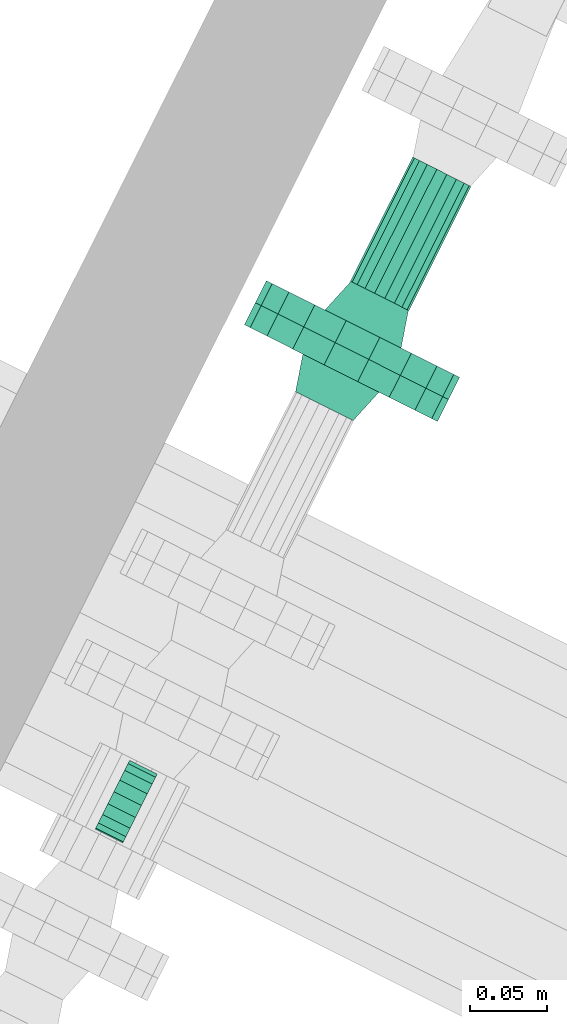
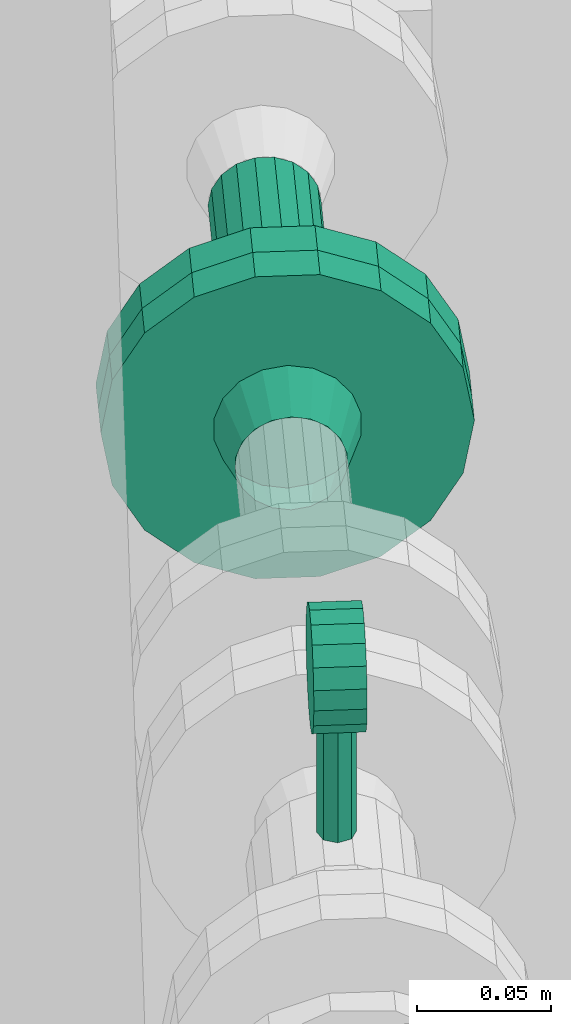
# One storey, part 142 of 206: 2 flow fittings, 1 distribution control element, 1 flow segment.
"""IFC2X3 building model written with IfcOpenShell, lengths in metres."""

from ifc_helpers import new_model, si_unit, derived_unit, direction, frame, origin, place, context, subcontext, project, spatial, face_set, surface_model, source, transform, mapped, material, type_object, type_shapes, element, save


model = new_model("IFC2X3")

# Units and contexts
model_context = context("Model", 3, precision=5.2338327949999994e-05, world=origin(), true_north=direction((0.0, 1.0)))
body_context = subcontext(model_context, "Body", "Model", "MODEL_VIEW")
ifc_project = project(units=[si_unit("LENGTHUNIT", "METRE"), si_unit("AREAUNIT", "SQUARE_METRE"), si_unit("VOLUMEUNIT", "CUBIC_METRE"), si_unit("MASSUNIT", "GRAM", prefix="KILO"), si_unit("PLANEANGLEUNIT", "RADIAN"), derived_unit("THERMALTRANSMITTANCEUNIT", [(si_unit("MASSUNIT", "GRAM", prefix="KILO"), 1), (si_unit("THERMODYNAMICTEMPERATUREUNIT", "KELVIN"), -1), (si_unit("TIMEUNIT", "SECOND"), -3)])], contexts=[model_context])

# Site, building, storey
site_placement = place(None, frame((0.0, 0.0, 0.0), z_axis=(0.0, 0.0, 1.0), x_axis=(0.8939966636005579, -0.4480736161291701, 0.0)))
site = spatial("IfcSite", under=ifc_project, at=site_placement, Name="Default", CompositionType="ELEMENT")
building_placement = place(site_placement, origin())
building = spatial("IfcBuilding", under=site, at=building_placement, CompositionType="ELEMENT")
storey_placement = place(building_placement, origin())
storey = spatial("IfcBuildingStorey", under=building, at=storey_placement, Name="Erdgeschoss", CompositionType="ELEMENT", Elevation=0.0)

# Flow fittings
ifc_material = material(Name="IfcSurfaceStyle #352577")
distribution_element_type_1 = type_object("IfcDistributionElementType", Name="Flansch 608436:Flansch 608436", material=ifc_material)
shared_shape_1 = source(origin(), body_context, "Body", "SurfaceModel", [
    surface_model("IfcFaceBasedSurfaceModel", [(29.151818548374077, 9.025162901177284, 1.5840041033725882), (29.14759703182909, 9.025162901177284, 1.6079455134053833), (29.14759703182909, 9.009162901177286, 1.6079455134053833), (29.151818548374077, 9.009162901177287, 1.5840041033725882), (29.135441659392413, 9.025162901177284, 1.628999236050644), (29.135441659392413, 9.009162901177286, 1.628999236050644), (29.116818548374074, 9.025162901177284, 1.6446258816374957), (29.116818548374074, 9.009162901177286, 1.6446258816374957), (29.093973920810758, 9.025162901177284, 1.6529406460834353), (29.093973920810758, 9.009162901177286, 1.6529406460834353), (29.069663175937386, 9.025162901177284, 1.652940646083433), (29.069663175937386, 9.009162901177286, 1.652940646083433), (29.04681854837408, 9.025162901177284, 1.6446258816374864), (29.04681854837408, 9.009162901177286, 1.6446258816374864), (29.028195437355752, 9.025162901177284, 1.6289992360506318), (29.028195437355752, 9.009162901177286, 1.6289992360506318), (29.016040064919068, 9.025162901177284, 1.6079455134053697), (29.016040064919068, 9.009162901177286, 1.6079455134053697), (29.011818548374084, 9.025162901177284, 1.5840041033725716), (29.011818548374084, 9.009162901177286, 1.5840041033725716), (29.016040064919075, 9.025162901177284, 1.5600626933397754), (29.016040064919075, 9.009162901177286, 1.5600626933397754), (29.028195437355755, 9.025162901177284, 1.5390089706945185), (29.028195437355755, 9.009162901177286, 1.5390089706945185), (29.046818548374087, 9.025162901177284, 1.523382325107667), (29.046818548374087, 9.009162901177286, 1.523382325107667), (29.069663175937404, 9.025162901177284, 1.5150675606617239), (29.069663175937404, 9.009162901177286, 1.5150675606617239), (29.093973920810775, 9.025162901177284, 1.515067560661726), (29.093973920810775, 9.009162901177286, 1.515067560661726), (29.11681854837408, 9.025162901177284, 1.5233823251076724), (29.11681854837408, 9.009162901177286, 1.5233823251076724), (29.135441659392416, 9.025162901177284, 1.5390089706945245), (29.135441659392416, 9.009162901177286, 1.5390089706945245), (29.1475970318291, 9.025162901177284, 1.5600626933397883), (29.1475970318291, 9.009162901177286, 1.5600626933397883), (29.081818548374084, 9.009162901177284, 1.5840041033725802), (29.08181854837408, 9.009162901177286, 1.6120041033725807), (29.07224198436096, 9.009162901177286, 1.6103154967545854), (29.07456772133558, 8.985162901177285, 1.6039255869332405), (29.081818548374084, 8.985162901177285, 1.6052041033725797), (29.06382049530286, 9.009162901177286, 1.6054533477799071), (29.068191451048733, 8.985162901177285, 1.6002442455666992), (29.057569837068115, 9.009162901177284, 1.5980041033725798), (29.06345880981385, 8.985162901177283, 1.5946041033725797), (29.05424393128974, 9.009162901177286, 1.5888662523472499), (29.060940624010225, 8.985162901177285, 1.5876854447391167), (29.05424393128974, 9.009162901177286, 1.5791419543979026), (29.06094062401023, 8.985162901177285, 1.580322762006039), (29.057569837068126, 9.009162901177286, 1.5700041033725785), (29.063458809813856, 8.985162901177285, 1.5734041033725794), (29.06382049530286, 9.009162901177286, 1.5625548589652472), (29.068191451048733, 8.985162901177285, 1.567763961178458), (29.07224198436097, 9.009162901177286, 1.5576927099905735), (29.07456772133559, 8.985162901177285, 1.5640826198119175), (29.081818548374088, 9.009162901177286, 1.5560041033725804), (29.081818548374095, 8.985162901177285, 1.56280410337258), (29.091395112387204, 9.009162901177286, 1.5576927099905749), (29.08906937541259, 8.985162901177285, 1.564082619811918), (29.099816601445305, 9.009162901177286, 1.5625548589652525), (29.095445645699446, 8.985162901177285, 1.5677639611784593), (29.106067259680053, 9.009162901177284, 1.5700041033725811), (29.100178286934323, 8.985162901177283, 1.573404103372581), (29.109393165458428, 9.009162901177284, 1.5791419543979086), (29.102696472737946, 8.985162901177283, 1.5803227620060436), (29.109393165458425, 9.009162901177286, 1.588866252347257), (29.10269647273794, 8.985162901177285, 1.587685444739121), (29.106067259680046, 9.009162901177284, 1.598004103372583), (29.10017828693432, 8.985162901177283, 1.5946041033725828), (29.0998166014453, 9.009162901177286, 1.6054533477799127), (29.095445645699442, 8.985162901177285, 1.6002442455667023), (29.0913951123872, 9.009162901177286, 1.6103154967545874), (29.089069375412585, 8.985162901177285, 1.6039255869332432)], [face_set([[[0, 1, 2, 3]], [[1, 4, 5, 2]], [[4, 6, 7, 5]], [[6, 8, 9, 7]], [[8, 10, 11, 9]], [[10, 12, 13, 11]], [[12, 14, 15, 13]], [[14, 16, 17, 15]], [[16, 18, 19, 17]], [[18, 20, 21, 19]], [[20, 22, 23, 21]], [[22, 24, 25, 23]], [[24, 26, 27, 25]], [[26, 28, 29, 27]], [[28, 30, 31, 29]], [[30, 32, 33, 31]], [[32, 34, 35, 33]], [[34, 0, 3, 35]], [[36, 35, 3]], [[36, 33, 35]], [[36, 31, 33]], [[36, 29, 31]], [[36, 27, 29]], [[36, 25, 27]], [[36, 23, 25]], [[36, 21, 23]], [[36, 19, 21]], [[36, 17, 19]], [[36, 15, 17]], [[36, 13, 15]], [[36, 11, 13]], [[36, 9, 11]], [[36, 7, 9]], [[36, 5, 7]], [[36, 2, 5]], [[36, 3, 2]], [[37, 38, 39, 40]], [[38, 41, 42, 39]], [[41, 43, 44, 42]], [[43, 45, 46, 44]], [[45, 47, 48, 46]], [[47, 49, 50, 48]], [[49, 51, 52, 50]], [[51, 53, 54, 52]], [[53, 55, 56, 54]], [[55, 57, 58, 56]], [[57, 59, 60, 58]], [[59, 61, 62, 60]], [[61, 63, 64, 62]], [[63, 65, 66, 64]], [[65, 67, 68, 66]], [[67, 69, 70, 68]], [[69, 71, 72, 70]], [[71, 37, 40, 72]]])]),
])
type_shapes(distribution_element_type_1, [shared_shape_1])
flow_fitting_1_placement = place(storey_placement, origin())
element("IfcFlowFitting", 1, at=flow_fitting_1_placement, inside=storey, type_object=distribution_element_type_1, material=ifc_material, Name="Flansch", ObjectType="Flansch", context=body_context, shape_type="MappedRepresentation", body=[
    mapped(shared_shape_1, transform((0.0, 0.0, 0.0), scale=1.0)),
])
distribution_element_type_2 = type_object("IfcDistributionElementType", Name="Flansch 608459:Flansch 608459", material=ifc_material)
shared_shape_2 = source(origin(), body_context, "Body", "SurfaceModel", [
    surface_model("IfcFaceBasedSurfaceModel", [(29.151818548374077, 9.025162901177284, 1.5840041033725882), (29.14759703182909, 9.025162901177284, 1.5600626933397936), (29.14759703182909, 9.041162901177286, 1.5600626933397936), (29.151818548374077, 9.041162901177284, 1.5840041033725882), (29.13544165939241, 9.025162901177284, 1.5390089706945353), (29.13544165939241, 9.041162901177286, 1.5390089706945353), (29.116818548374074, 9.025162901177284, 1.5233823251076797), (29.116818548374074, 9.041162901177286, 1.5233823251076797), (29.093973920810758, 9.025162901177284, 1.5150675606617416), (29.093973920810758, 9.041162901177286, 1.5150675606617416), (29.069663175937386, 9.025162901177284, 1.5150675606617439), (29.069663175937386, 9.041162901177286, 1.5150675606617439), (29.04681854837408, 9.025162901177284, 1.5233823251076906), (29.04681854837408, 9.041162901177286, 1.5233823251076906), (29.02819543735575, 9.025162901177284, 1.539008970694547), (29.02819543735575, 9.041162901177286, 1.539008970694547), (29.016040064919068, 9.025162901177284, 1.5600626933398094), (29.016040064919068, 9.041162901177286, 1.5600626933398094), (29.011818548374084, 9.025162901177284, 1.5840041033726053), (29.011818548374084, 9.041162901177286, 1.5840041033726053), (29.016040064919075, 9.025162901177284, 1.607945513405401), (29.016040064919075, 9.041162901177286, 1.607945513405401), (29.02819543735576, 9.025162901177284, 1.6289992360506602), (29.02819543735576, 9.041162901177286, 1.6289992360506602), (29.046818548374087, 9.025162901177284, 1.6446258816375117), (29.046818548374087, 9.041162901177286, 1.6446258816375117), (29.069663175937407, 9.025162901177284, 1.6529406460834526), (29.069663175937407, 9.041162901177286, 1.6529406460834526), (29.093973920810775, 9.025162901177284, 1.6529406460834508), (29.093973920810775, 9.041162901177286, 1.6529406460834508), (29.11681854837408, 9.025162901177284, 1.6446258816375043), (29.11681854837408, 9.041162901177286, 1.6446258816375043), (29.135441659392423, 9.025162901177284, 1.6289992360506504), (29.135441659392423, 9.041162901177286, 1.6289992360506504), (29.1475970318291, 9.025162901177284, 1.607945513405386), (29.1475970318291, 9.041162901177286, 1.607945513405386), (29.08181854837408, 9.041162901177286, 1.5840041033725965), (29.08181854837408, 9.041162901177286, 1.5560041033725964), (29.07224198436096, 9.041162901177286, 1.5576927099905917), (29.074567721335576, 9.065162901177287, 1.5640826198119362), (29.08181854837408, 9.065162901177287, 1.562804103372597), (29.06382049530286, 9.041162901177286, 1.562554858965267), (29.06819145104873, 9.065162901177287, 1.5677639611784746), (29.057569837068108, 9.041162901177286, 1.570004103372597), (29.063458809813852, 9.065162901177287, 1.5734041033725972), (29.054243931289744, 9.041162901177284, 1.5791419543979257), (29.06094062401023, 9.065162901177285, 1.5803227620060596), (29.05424393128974, 9.041162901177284, 1.588866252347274), (29.06094062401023, 9.065162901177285, 1.5876854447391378), (29.057569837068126, 9.041162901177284, 1.5980041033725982), (29.063458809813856, 9.065162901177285, 1.5946041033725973), (29.06382049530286, 9.041162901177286, 1.6054533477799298), (29.068191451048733, 9.065162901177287, 1.6002442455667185), (29.07224198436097, 9.041162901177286, 1.6103154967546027), (29.07456772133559, 9.065162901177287, 1.6039255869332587), (29.081818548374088, 9.041162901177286, 1.612004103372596), (29.081818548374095, 9.065162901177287, 1.6052041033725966), (29.091395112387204, 9.041162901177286, 1.6103154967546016), (29.08906937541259, 9.065162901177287, 1.6039255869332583), (29.099816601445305, 9.041162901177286, 1.605453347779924), (29.095445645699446, 9.065162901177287, 1.6002442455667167), (29.106067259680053, 9.041162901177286, 1.5980041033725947), (29.100178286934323, 9.065162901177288, 1.594604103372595), (29.109393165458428, 9.041162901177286, 1.588866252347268), (29.102696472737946, 9.065162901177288, 1.5876854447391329), (29.109393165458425, 9.041162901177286, 1.57914195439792), (29.10269647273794, 9.065162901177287, 1.5803227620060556), (29.10606725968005, 9.041162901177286, 1.570004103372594), (29.10017828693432, 9.065162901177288, 1.5734041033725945), (29.0998166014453, 9.041162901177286, 1.562554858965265), (29.095445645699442, 9.065162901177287, 1.5677639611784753), (29.0913951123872, 9.041162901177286, 1.5576927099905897), (29.089069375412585, 9.065162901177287, 1.564082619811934)], [face_set([[[0, 1, 2, 3]], [[1, 4, 5, 2]], [[4, 6, 7, 5]], [[6, 8, 9, 7]], [[8, 10, 11, 9]], [[10, 12, 13, 11]], [[12, 14, 15, 13]], [[14, 16, 17, 15]], [[16, 18, 19, 17]], [[18, 20, 21, 19]], [[20, 22, 23, 21]], [[22, 24, 25, 23]], [[24, 26, 27, 25]], [[26, 28, 29, 27]], [[28, 30, 31, 29]], [[30, 32, 33, 31]], [[32, 34, 35, 33]], [[34, 0, 3, 35]], [[36, 35, 3]], [[36, 33, 35]], [[36, 31, 33]], [[36, 29, 31]], [[36, 27, 29]], [[36, 25, 27]], [[36, 23, 25]], [[36, 21, 23]], [[36, 19, 21]], [[36, 17, 19]], [[36, 15, 17]], [[36, 13, 15]], [[36, 11, 13]], [[36, 9, 11]], [[36, 7, 9]], [[36, 5, 7]], [[36, 2, 5]], [[36, 3, 2]], [[37, 38, 39, 40]], [[38, 41, 42, 39]], [[41, 43, 44, 42]], [[43, 45, 46, 44]], [[45, 47, 48, 46]], [[47, 49, 50, 48]], [[49, 51, 52, 50]], [[51, 53, 54, 52]], [[53, 55, 56, 54]], [[55, 57, 58, 56]], [[57, 59, 60, 58]], [[59, 61, 62, 60]], [[61, 63, 64, 62]], [[63, 65, 66, 64]], [[65, 67, 68, 66]], [[67, 69, 70, 68]], [[69, 71, 72, 70]], [[71, 37, 40, 72]]])]),
])
type_shapes(distribution_element_type_2, [shared_shape_2])
flow_fitting_2_placement = place(storey_placement, origin())
element("IfcFlowFitting", 2, at=flow_fitting_2_placement, inside=storey, type_object=distribution_element_type_2, material=ifc_material, Name="Flansch", ObjectType="Flansch", context=body_context, shape_type="MappedRepresentation", body=[
    mapped(shared_shape_2, transform((0.0, 0.0, 0.0), scale=1.0)),
])

# Flow segment
distribution_element_type_3 = type_object("IfcDistributionElementType", Name="Stahlrohr nach DIN 2448 608480:Stahlrohr nach DIN 2448 608480", material=ifc_material)
shared_shape_3 = source(origin(), body_context, "Body", "SurfaceModel", [
    surface_model("IfcFaceBasedSurfaceModel", [(29.10301854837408, 9.065162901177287, 1.58400410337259), (29.10174003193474, 9.065162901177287, 1.5767532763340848), (29.10174003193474, 9.155162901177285, 1.576753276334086), (29.103018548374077, 9.155162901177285, 1.584004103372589), (29.09805869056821, 9.065162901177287, 1.5703770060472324), (29.09805869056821, 9.155162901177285, 1.5703770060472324), (29.092418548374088, 9.065162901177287, 1.5656443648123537), (29.092418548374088, 9.155162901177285, 1.5656443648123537), (29.08549988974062, 9.065162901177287, 1.5631261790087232), (29.08549988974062, 9.155162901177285, 1.5631261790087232), (29.07813720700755, 9.065162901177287, 1.5631261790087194), (29.07813720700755, 9.155162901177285, 1.5631261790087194), (29.07121854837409, 9.065162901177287, 1.565644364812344), (29.07121854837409, 9.155162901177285, 1.565644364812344), (29.065578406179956, 9.065162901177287, 1.57037700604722), (29.065578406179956, 9.155162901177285, 1.57037700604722), (29.06189706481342, 9.065162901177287, 1.5767532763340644), (29.06189706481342, 9.155162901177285, 1.5767532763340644), (29.060618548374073, 9.065162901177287, 1.58400410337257), (29.060618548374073, 9.155162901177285, 1.58400410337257), (29.06189706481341, 9.065162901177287, 1.5912549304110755), (29.06189706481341, 9.155162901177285, 1.5912549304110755), (29.06557840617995, 9.065162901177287, 1.5976312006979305), (29.06557840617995, 9.155162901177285, 1.5976312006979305), (29.07121854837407, 9.065162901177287, 1.6023638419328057), (29.07121854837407, 9.155162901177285, 1.6023638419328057), (29.07813720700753, 9.065162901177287, 1.6048820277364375), (29.07813720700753, 9.155162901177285, 1.6048820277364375), (29.085499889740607, 9.065162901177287, 1.6048820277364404), (29.085499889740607, 9.155162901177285, 1.6048820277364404), (29.09241854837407, 9.065162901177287, 1.6023638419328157), (29.09241854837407, 9.155162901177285, 1.6023638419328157), (29.098058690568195, 9.065162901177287, 1.5976312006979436), (29.098058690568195, 9.155162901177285, 1.5976312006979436), (29.101740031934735, 9.065162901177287, 1.5912549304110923), (29.101740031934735, 9.155162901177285, 1.5912549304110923)], [face_set([[[0, 1, 2, 3]], [[1, 4, 5, 2]], [[4, 6, 7, 5]], [[6, 8, 9, 7]], [[8, 10, 11, 9]], [[10, 12, 13, 11]], [[12, 14, 15, 13]], [[14, 16, 17, 15]], [[16, 18, 19, 17]], [[18, 20, 21, 19]], [[20, 22, 23, 21]], [[22, 24, 25, 23]], [[24, 26, 27, 25]], [[26, 28, 29, 27]], [[28, 30, 31, 29]], [[30, 32, 33, 31]], [[32, 34, 35, 33]], [[34, 0, 3, 35]]])]),
])
type_shapes(distribution_element_type_3, [shared_shape_3])
flow_segment_placement = place(storey_placement, origin())
element("IfcFlowSegment", 3, at=flow_segment_placement, inside=storey, type_object=distribution_element_type_3, material=ifc_material, Name="Stahlrohr nach DIN 2448", ObjectType="Stahlrohr nach DIN 2448", context=body_context, shape_type="MappedRepresentation", body=[
    mapped(shared_shape_3, transform((0.0, 0.0, 0.0), scale=1.0)),
])

# Distribution control element
distribution_element_type_4 = type_object("IfcDistributionElementType", Name="Messarmatur 612673:Messarmatur 612673", material=ifc_material)
shared_shape_4 = source(origin(), body_context, "Body", "SurfaceModel", [
    surface_model("IfcFaceBasedSurfaceModel", [(29.071818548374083, 8.716173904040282, 1.7090817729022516), (29.071818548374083, 8.709061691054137, 1.7140617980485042), (29.091818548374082, 8.709061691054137, 1.7140617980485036), (29.091818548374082, 8.716173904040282, 1.7090817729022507), (29.071818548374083, 8.70067512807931, 1.7163089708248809), (29.091818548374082, 8.70067512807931, 1.7163089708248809), (29.071818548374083, 8.692025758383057, 1.7155522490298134), (29.091818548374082, 8.692025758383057, 1.7155522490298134), (29.071818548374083, 8.684156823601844, 1.711882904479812), (29.091818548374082, 8.684156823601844, 1.711882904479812), (29.071818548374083, 8.678017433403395, 1.7057435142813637), (29.091818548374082, 8.678017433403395, 1.7057435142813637), (29.071818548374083, 8.674348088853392, 1.6978745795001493), (29.091818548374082, 8.674348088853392, 1.6978745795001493), (29.071818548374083, 8.673591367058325, 1.6892252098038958), (29.091818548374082, 8.673591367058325, 1.6892252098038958), (29.071818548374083, 8.675838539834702, 1.6808386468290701), (29.091818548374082, 8.675838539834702, 1.6808386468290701), (29.071818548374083, 8.680818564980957, 1.6737264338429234), (29.091818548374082, 8.680818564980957, 1.6737264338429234), (29.071818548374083, 8.687930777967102, 1.6687464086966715), (29.091818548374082, 8.687930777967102, 1.6687464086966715), (29.071818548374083, 8.696317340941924, 1.6664992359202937), (29.091818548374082, 8.696317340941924, 1.6664992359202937), (29.071818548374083, 8.704966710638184, 1.66725595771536), (29.091818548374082, 8.704966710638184, 1.66725595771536), (29.071818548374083, 8.712835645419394, 1.6709253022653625), (29.091818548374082, 8.712835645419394, 1.6709253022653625), (29.071818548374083, 8.718975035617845, 1.6770646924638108), (29.091818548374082, 8.718975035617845, 1.6770646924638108), (29.071818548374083, 8.722644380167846, 1.684933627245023), (29.091818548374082, 8.722644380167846, 1.684933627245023), (29.071818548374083, 8.723401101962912, 1.6935829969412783), (29.091818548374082, 8.723401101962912, 1.6935829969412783), (29.071818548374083, 8.721153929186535, 1.7019695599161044), (29.091818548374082, 8.721153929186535, 1.7019695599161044), (29.071818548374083, 8.69849623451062, 1.6914041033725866), (29.091818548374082, 8.69849623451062, 1.6914041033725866), (29.074318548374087, 8.69849623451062, 1.6164041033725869), (29.076515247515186, 8.69319293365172, 1.6164041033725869), (29.076515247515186, 8.693192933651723, 1.6664041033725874), (29.074318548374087, 8.698496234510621, 1.6664041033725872), (29.08181854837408, 8.690996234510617, 1.616404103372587), (29.08181854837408, 8.690996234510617, 1.6664041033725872), (29.087121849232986, 8.69319293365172, 1.6164041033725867), (29.087121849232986, 8.693192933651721, 1.6664041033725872), (29.089318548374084, 8.69849623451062, 1.6164041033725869), (29.089318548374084, 8.69849623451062, 1.6664041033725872), (29.087121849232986, 8.70379953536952, 1.6164041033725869), (29.087121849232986, 8.703799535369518, 1.6664041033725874), (29.08181854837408, 8.70599623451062, 1.6164041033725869), (29.08181854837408, 8.705996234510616, 1.666404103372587), (29.076515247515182, 8.703799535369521, 1.6164041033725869), (29.076515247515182, 8.703799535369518, 1.6664041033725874)], [face_set([[[0, 1, 2, 3]], [[1, 4, 5, 2]], [[4, 6, 7, 5]], [[6, 8, 9, 7]], [[8, 10, 11, 9]], [[10, 12, 13, 11]], [[12, 14, 15, 13]], [[14, 16, 17, 15]], [[16, 18, 19, 17]], [[18, 20, 21, 19]], [[20, 22, 23, 21]], [[22, 24, 25, 23]], [[24, 26, 27, 25]], [[26, 28, 29, 27]], [[28, 30, 31, 29]], [[30, 32, 33, 31]], [[32, 34, 35, 33]], [[34, 0, 3, 35]], [[36, 1, 0]], [[36, 4, 1]], [[36, 6, 4]], [[36, 8, 6]], [[36, 10, 8]], [[36, 12, 10]], [[36, 14, 12]], [[36, 16, 14]], [[36, 18, 16]], [[36, 20, 18]], [[36, 22, 20]], [[36, 24, 22]], [[36, 26, 24]], [[36, 28, 26]], [[36, 30, 28]], [[36, 32, 30]], [[36, 34, 32]], [[36, 0, 34]], [[37, 35, 3]], [[37, 33, 35]], [[37, 31, 33]], [[37, 29, 31]], [[37, 27, 29]], [[37, 25, 27]], [[37, 23, 25]], [[37, 21, 23]], [[37, 19, 21]], [[37, 17, 19]], [[37, 15, 17]], [[37, 13, 15]], [[37, 11, 13]], [[37, 9, 11]], [[37, 7, 9]], [[37, 5, 7]], [[37, 2, 5]], [[37, 3, 2]], [[38, 39, 40, 41]], [[39, 42, 43, 40]], [[42, 44, 45, 43]], [[44, 46, 47, 45]], [[46, 48, 49, 47]], [[48, 50, 51, 49]], [[50, 52, 53, 51]], [[52, 38, 41, 53]]])]),
])
type_shapes(distribution_element_type_4, [shared_shape_4])
distribution_control_element_placement = place(storey_placement, origin())
element("IfcDistributionControlElement", 4, at=distribution_control_element_placement, inside=storey, type_object=distribution_element_type_4, material=ifc_material, Name="Messarmatur", ObjectType="Messarmatur", context=body_context, shape_type="MappedRepresentation", body=[
    mapped(shared_shape_4, transform((0.0, 0.0, 0.0), scale=1.0)),
])

save(model, "model.ifc")
